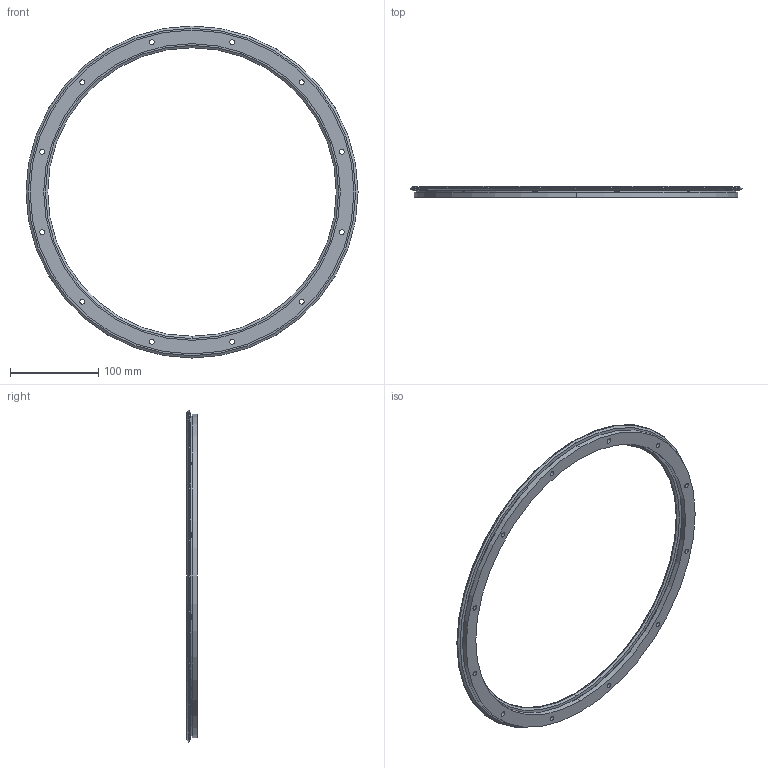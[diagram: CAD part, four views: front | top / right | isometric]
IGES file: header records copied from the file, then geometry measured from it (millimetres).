
Start section: 3D InterOp IGES (v. 2020 1.0.1), Spatial Corp. Copyright (c) 1999-2017.
Global section: file name: r25_351_r360.igs; native system: Spatial Corp.; preprocessor: 3D InterOp ACIS/IGES; author: TraceParts; organization: TraceParts S.A.; date: 20220624.070150; units: millimetre
Bounding box: 375.61 x 12.25 x 375.61 mm (x, y, z)
Surface area: 87001.4 mm2 (no closed solid volume)
Topology: 0 solids, 0 shells, 90 faces, 408 edges, 408 vertices
Faces by surface type: revolution 72, extrusion 18
